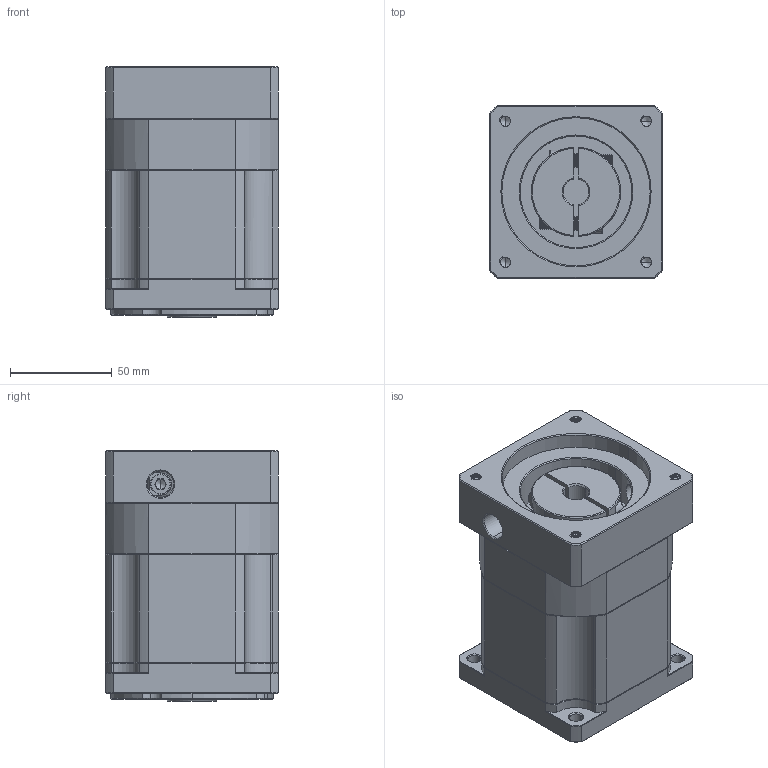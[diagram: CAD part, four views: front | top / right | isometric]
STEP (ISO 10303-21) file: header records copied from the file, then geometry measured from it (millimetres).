
FILE_DESCRIPTION (( 'STEP AP214' ), '1' );
FILE_NAME ('ZB90-K15-L2-12.7-73-69.5X69.5-M6.STEP', '2022-05-02T15:30:18', ( '' ), ( 'Microsoft' ), 'SwSTEP 2.0', 'SolidWorks 2016', '' );
FILE_SCHEMA (( 'AUTOMOTIVE_DESIGN' ));
Length unit declared in the file: millimetre
Products named in the file (1): ZB90-K15-L2-12.7-73-69.5X69.5-M6
Bounding box: 85 x 85 x 123.5 mm (x, y, z)
Volume: 711779.1 mm3; surface area: 90989.5 mm2
Topology: 4 solids, 5 shells, 1879 faces, 4911 edges, 3111 vertices
Faces by surface type: plane 875, cylinder 358, cone 329, bspline 292, torus 25
Entity records: 98884 total; most frequent: CARTESIAN_POINT 34486, ORIENTED_EDGE 9782, DIRECTION 7996, EDGE_CURVE 4891, VERTEX_POINT 3111, LINE 3046, VECTOR 3046, AXIS2_PLACEMENT_3D 2475
